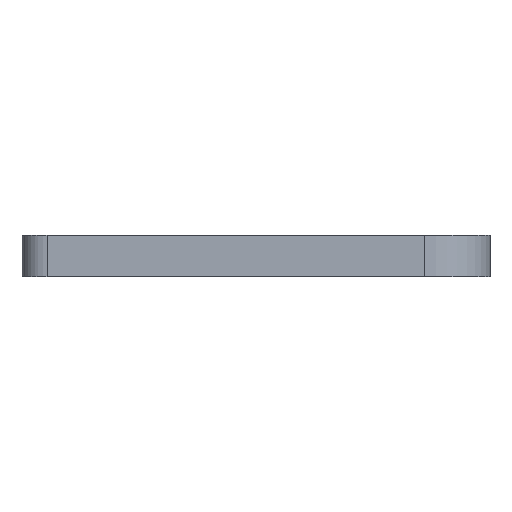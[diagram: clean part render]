
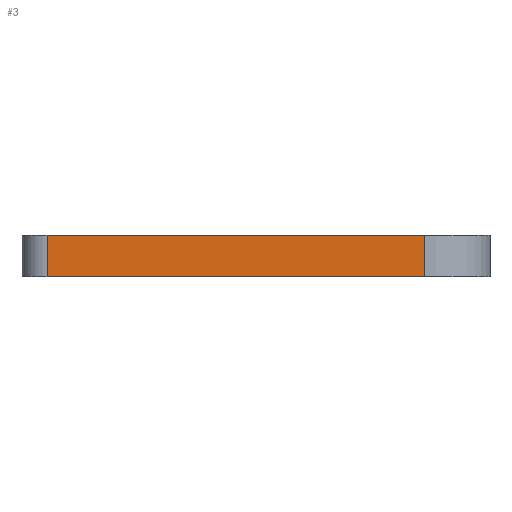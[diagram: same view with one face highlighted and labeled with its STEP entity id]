
A CAD part, front view. The second image highlights one B-rep face of the part: STEP entity #3.
In plain terms, the highlighted planar face has unit normal (0, -1, 0).
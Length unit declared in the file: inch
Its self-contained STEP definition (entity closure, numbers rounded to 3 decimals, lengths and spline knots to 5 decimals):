
#3 = ADVANCED_FACE ( 'NONE', ( #1178 ), #1177, .T. ) ;
#21 = VERTEX_POINT ( 'NONE', #1206 ) ;
#23 = EDGE_CURVE ( 'NONE', #21, #984, #1205, .T. ) ;
#977 = VERTEX_POINT ( 'NONE', #2809 ) ;
#984 = VERTEX_POINT ( 'NONE', #2860 ) ;
#1022 = EDGE_CURVE ( 'NONE', #977, #984, #2922, .T. ) ;
#1098 = EDGE_CURVE ( 'NONE', #1099, #977, #3052, .T. ) ;
#1099 = VERTEX_POINT ( 'NONE', #3048 ) ;
#1173 = DIRECTION ( 'NONE',  ( 0., 0., -1. ) ) ;
#1174 = DIRECTION ( 'NONE',  ( 0., -1., 0. ) ) ;
#1175 = CARTESIAN_POINT ( 'NONE',  ( -1.95, -3.35, -1. ) ) ;
#1176 = AXIS2_PLACEMENT_3D ( 'NONE', #1175, #1174, #1173 ) ;
#1177 = PLANE ( 'NONE',  #1176 ) ;
#1178 = FACE_OUTER_BOUND ( 'NONE', #3486, .T. ) ;
#1202 = DIRECTION ( 'NONE',  ( 1., 0., 0. ) ) ;
#1203 = VECTOR ( 'NONE', #1202, 39.37008 ) ;
#1204 = CARTESIAN_POINT ( 'NONE',  ( -1.95, -3.35, 0. ) ) ;
#1205 = LINE ( 'NONE', #1204, #1203 ) ;
#1206 = CARTESIAN_POINT ( 'NONE',  ( -1.95, -3.35, 0. ) ) ;
#2809 = CARTESIAN_POINT ( 'NONE',  ( 7.1, -3.35, -1. ) ) ;
#2860 = CARTESIAN_POINT ( 'NONE',  ( 7.1, -3.35, 0. ) ) ;
#2919 = DIRECTION ( 'NONE',  ( 0., 0., 1. ) ) ;
#2920 = VECTOR ( 'NONE', #2919, 39.37008 ) ;
#2921 = CARTESIAN_POINT ( 'NONE',  ( 7.1, -3.35, -1. ) ) ;
#2922 = LINE ( 'NONE', #2921, #2920 ) ;
#3048 = CARTESIAN_POINT ( 'NONE',  ( -1.95, -3.35, -1. ) ) ;
#3049 = DIRECTION ( 'NONE',  ( 1., 0., 0. ) ) ;
#3050 = VECTOR ( 'NONE', #3049, 39.37008 ) ;
#3051 = CARTESIAN_POINT ( 'NONE',  ( -1.95, -3.35, -1. ) ) ;
#3052 = LINE ( 'NONE', #3051, #3050 ) ;
#3284 = DIRECTION ( 'NONE',  ( 0., 0., 1. ) ) ;
#3285 = VECTOR ( 'NONE', #3284, 39.37008 ) ;
#3286 = CARTESIAN_POINT ( 'NONE',  ( -1.95, -3.35, -1. ) ) ;
#3287 = LINE ( 'NONE', #3286, #3285 ) ;
#3459 = ORIENTED_EDGE ( 'NONE', *, *, #1022, .T. ) ;
#3463 = EDGE_CURVE ( 'NONE', #1099, #21, #3287, .T. ) ;
#3465 = ORIENTED_EDGE ( 'NONE', *, *, #1098, .T. ) ;
#3484 = ORIENTED_EDGE ( 'NONE', *, *, #3463, .F. ) ;
#3485 = ORIENTED_EDGE ( 'NONE', *, *, #23, .F. ) ;
#3486 = EDGE_LOOP ( 'NONE', ( #3485, #3484, #3465, #3459 ) ) ;
